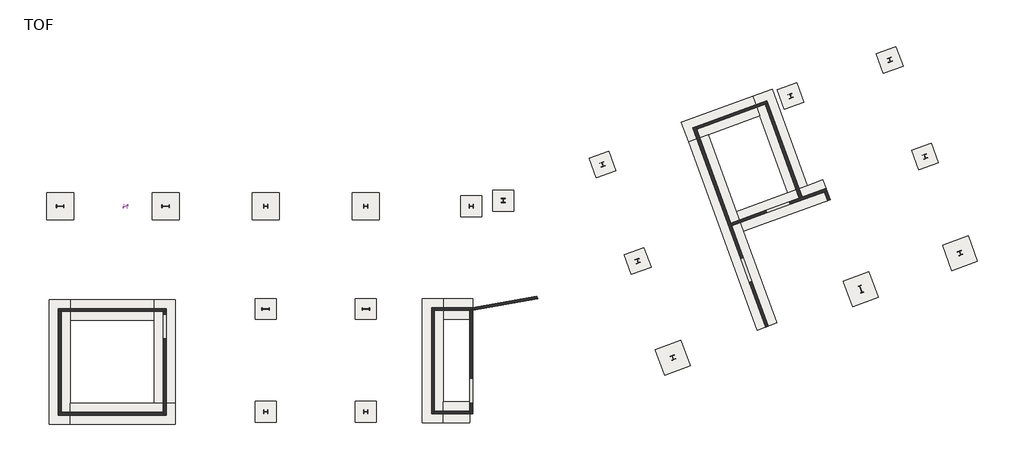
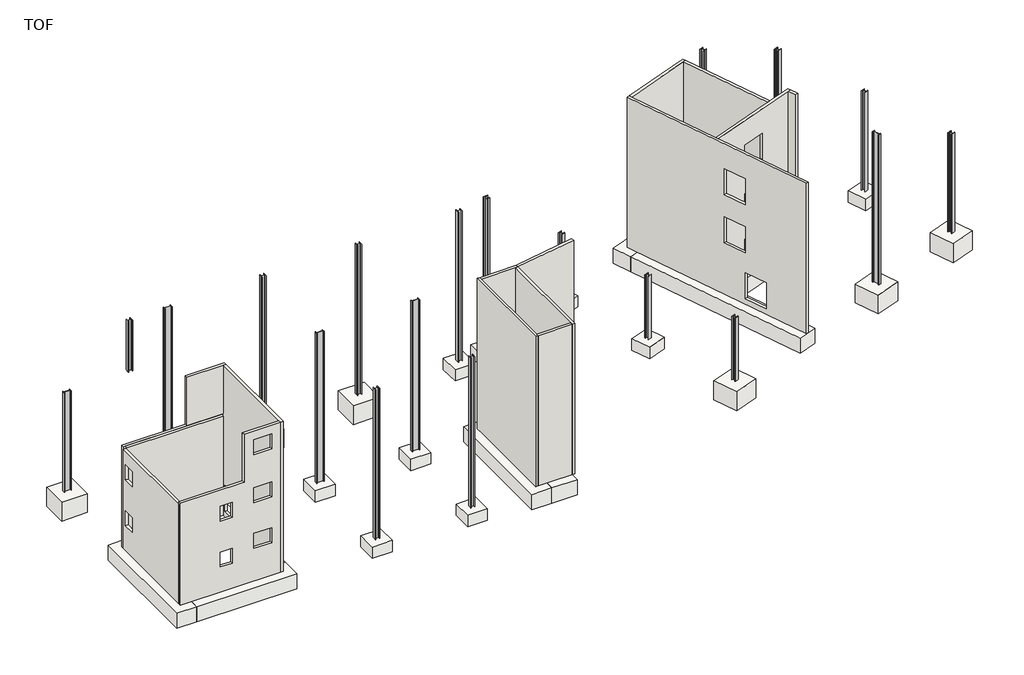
# One storey: 19 columns, 18 slabs, 14 walls, 11 footings.
"""IFC4 building model written with IfcOpenShell, lengths in millimetres."""

from ifc_helpers import new_model, si_unit, point, frame, frame_2d, origin, place, context, project, spatial, polyline, circle_curve, trimmed, segment, composite_curve, outline, extrude, faceted_brep, transform, mapped, element, save
from components import w_shapes_column_w12x79_d0459791, w_shapes_column_w12x79_edbe5077, w_shapes_column_w12x79_cd1dd4a6, w_shapes_column_w21x93_f6fee3cd, w_shapes_column_w21x93_43f6f9c6, slab_a75956b3, slab_430385ac

model = new_model("IFC4")

# Units and contexts
model_context = context("Model", 3, world=origin())
ifc_project = project(units=[si_unit("LENGTHUNIT", "METRE", prefix="MILLI")], contexts=[model_context])

# Site, building, storey
site = spatial("IfcSite", under=ifc_project)
building = spatial("IfcBuilding", under=site)
storey = spatial("IfcBuildingStorey", under=building, Name="TOF", Elevation=-450.0)

# Columns
placement = place(None, origin())
element("IfcColumn", 1, ObjectType="W Shapes-Column : W12X79", at=placement, inside=storey, context=model_context, shape_type="SweptSolid", body=[
    extrude(outline(composite_curve([segment(polyline([(4974.3866692, 15516.8700005), (4993.0556692, 15516.8700005), (4993.0556692, 15384.2820005)]), True, "CONTINUOUS"), segment(trimmed(circle_curve(frame_2d((5008.1686692, 15384.2820005)), 15.113), [point((4993.0556692, 15384.2820005))], [point((5008.1686692, 15369.1690005))], True, "CARTESIAN"), True, "CONTINUOUS"), segment(polyline([(5008.1686692, 15369.1690005), (5255.5646692, 15369.1690005)]), True, "CONTINUOUS"), segment(trimmed(circle_curve(frame_2d((5255.5646692, 15384.2820005)), 15.113), [point((5255.5646692, 15369.1690005))], [point((5270.6776692, 15384.2820005))], True, "CARTESIAN"), True, "CONTINUOUS"), segment(polyline([(5270.6776692, 15384.2820005), (5270.6776692, 15516.8700005), (5289.3466692, 15516.8700005), (5289.3466692, 15209.5300005), (5270.6776692, 15209.5300005), (5270.6776692, 15342.1180005)]), True, "CONTINUOUS"), segment(trimmed(circle_curve(frame_2d((5255.5646692, 15342.1180005)), 15.113), [point((5270.6776692, 15342.1180005))], [point((5255.5646692, 15357.2310005))], True, "CARTESIAN"), True, "CONTINUOUS"), segment(polyline([(5255.5646692, 15357.2310005), (5008.1686692, 15357.2310005)]), True, "CONTINUOUS"), segment(trimmed(circle_curve(frame_2d((5008.1686692, 15342.1180005)), 15.113), [point((5008.1686692, 15357.2310005))], [point((4993.0556692, 15342.1180005))], True, "CARTESIAN"), True, "CONTINUOUS"), segment(polyline([(4993.0556692, 15342.1180005), (4993.0556692, 15209.5300005), (4974.3866692, 15209.5300005), (4974.3866692, 15516.8700005)]), True, "CONTINUOUS")], self_intersect=False)), frame((0.0, 0.0, 7595.0), z_axis=(0.0, 0.0, 1.0), x_axis=(1.0, 0.0, 0.0)), (0.0, 0.0, 1.0), 4105.0),
])
w_shapes_column_w12x79_shape = w_shapes_column_w12x79_d0459791(model_context)
element("IfcColumn", 2, ObjectType="W Shapes-Column : W12X79", at=placement, inside=storey, context=model_context, shape_type="MappedRepresentation", body=[
    mapped(w_shapes_column_w12x79_shape, transform((22662.2000023, 15363.2000005, 0.0), x_axis=(0.0, 1.0, 0.0), y_axis=(-1.0, 0.0, 0.0), z_axis=(0.0, 0.0, 1.0))),
])
element("IfcColumn", 3, ObjectType="W Shapes-Column : W12X79", at=placement, inside=storey, context=model_context, shape_type="MappedRepresentation", body=[
    mapped(w_shapes_column_w12x79_shape, transform((15362.2000023, 15363.2000005, 0.0), x_axis=(0.0, 1.0, 0.0), y_axis=(-1.0, 0.0, 0.0), z_axis=(0.0, 0.0, 1.0))),
])
element("IfcColumn", 4, ObjectType="W Shapes-Column : W12X79", at=placement, inside=storey, context=model_context, shape_type="MappedRepresentation", body=[
    mapped(w_shapes_column_w12x79_shape, transform((15362.2000023, 363.2000005, 0.0), x_axis=(0.0, 1.0, 0.0), y_axis=(-1.0, 0.0, 0.0), z_axis=(0.0, 0.0, 1.0))),
])
element("IfcColumn", 5, ObjectType="W Shapes-Column : W12X79", at=placement, inside=storey, context=model_context, shape_type="MappedRepresentation", body=[
    mapped(w_shapes_column_w12x79_shape, transform((22662.2000022, 363.2000005, 0.0), x_axis=(0.0, 1.0, 0.0), y_axis=(-1.0, 0.0, 0.0), z_axis=(0.0, 0.0, 1.0))),
])
element("IfcColumn", 6, ObjectType="W Shapes-Column : W12X79", at=placement, inside=storey, context=model_context, shape_type="MappedRepresentation", body=[
    mapped(w_shapes_column_w12x79_shape, transform((53654.8598867, 23402.4160596, 0.0), x_axis=(0.9396926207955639, 0.3420201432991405, 0.0), y_axis=(-0.3420201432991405, 0.9396926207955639, 0.0), z_axis=(0.0, 0.0, 1.0))),
])
element("IfcColumn", 7, ObjectType="W Shapes-Column : W12X79", at=placement, inside=storey, context=model_context, shape_type="MappedRepresentation", body=[
    mapped(w_shapes_column_w12x79_shape, transform((30362.2000022, 15363.2000005, 0.0), x_axis=(0.0, 1.0, 0.0), y_axis=(-1.0, 0.0, 0.0), z_axis=(0.0, 0.0, 1.0))),
])
element("IfcColumn", 8, ObjectType="W Shapes-Column : W12X79", at=placement, inside=storey, context=model_context, shape_type="MappedRepresentation", body=[
    mapped(w_shapes_column_w12x79_shape, transform((32699.714443, 15775.3668642, 0.0), x_axis=(1.0, 0.0, 0.0), y_axis=(0.0, 1.0, 0.0), z_axis=(0.0, 0.0, 1.0))),
])
w_shapes_column_w12x79_2_shape = w_shapes_column_w12x79_edbe5077(model_context)
element("IfcColumn", 9, ObjectType="W Shapes-Column : W12X79", at=placement, inside=storey, context=model_context, shape_type="MappedRepresentation", body=[
    mapped(w_shapes_column_w12x79_2_shape, transform((42500.4986978, 11361.2273115, 0.0), x_axis=(0.9396926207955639, 0.3420201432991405, 0.0), y_axis=(-0.3420201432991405, 0.9396926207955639, 0.0), z_axis=(0.0, 0.0, 1.0))),
])
element("IfcColumn", 10, ObjectType="W Shapes-Column : W12X79", at=placement, inside=storey, context=model_context, shape_type="MappedRepresentation", body=[
    mapped(w_shapes_column_w12x79_2_shape, transform((39935.3476231, 18408.9219674, 0.0), x_axis=(0.9396926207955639, 0.3420201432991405, 0.0), y_axis=(-0.3420201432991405, 0.9396926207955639, 0.0), z_axis=(0.0, 0.0, 1.0))),
])
element("IfcColumn", 11, ObjectType="W Shapes-Column : W12X79", at=placement, inside=storey, context=model_context, shape_type="MappedRepresentation", body=[
    mapped(w_shapes_column_w12x79_2_shape, transform((45065.6497726, 4313.5326555, 0.0), x_axis=(0.939692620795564, 0.3420201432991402, 0.0), y_axis=(-0.3420201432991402, 0.939692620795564, 0.0), z_axis=(0.0, 0.0, 1.0))),
])
w_shapes_column_w12x79_3_shape = w_shapes_column_w12x79_cd1dd4a6(model_context)
element("IfcColumn", 12, ObjectType="W Shapes-Column : W12X79", at=placement, inside=storey, context=model_context, shape_type="MappedRepresentation", body=[
    mapped(w_shapes_column_w12x79_3_shape, transform((60890.4930669, 26035.971163, 0.0), x_axis=(0.9396926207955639, 0.3420201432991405, 0.0), y_axis=(-0.3420201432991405, 0.9396926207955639, 0.0), z_axis=(0.0, 0.0, 1.0))),
])
element("IfcColumn", 13, ObjectType="W Shapes-Column : W12X79", at=placement, inside=storey, context=model_context, shape_type="MappedRepresentation", body=[
    mapped(w_shapes_column_w12x79_3_shape, transform((63455.6441416, 18988.2765071, 0.0), x_axis=(0.9396926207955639, 0.3420201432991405, 0.0), y_axis=(-0.3420201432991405, 0.9396926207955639, 0.0), z_axis=(0.0, 0.0, 1.0))),
])
element("IfcColumn", 14, ObjectType="W Shapes-Column : W12X79", at=placement, inside=storey, context=model_context, shape_type="MappedRepresentation", body=[
    mapped(w_shapes_column_w12x79_3_shape, transform((66020.7952164, 11940.5818511, 0.0), x_axis=(0.9396926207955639, 0.3420201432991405, 0.0), y_axis=(-0.3420201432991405, 0.9396926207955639, 0.0), z_axis=(0.0, 0.0, 1.0))),
])
w_shapes_column_w21x93_shape = w_shapes_column_w21x93_f6fee3cd(model_context)
element("IfcColumn", 15, ObjectType="W Shapes-Column : W21X93", at=placement, inside=storey, context=model_context, shape_type="MappedRepresentation", body=[
    mapped(w_shapes_column_w21x93_shape, transform((15362.2000023, 7863.2000004, 0.0), x_axis=(0.0, 1.0, 0.0), y_axis=(-1.0, 0.0, 0.0), z_axis=(0.0, 0.0, 1.0))),
])
element("IfcColumn", 16, ObjectType="W Shapes-Column : W21X93", at=placement, inside=storey, context=model_context, shape_type="MappedRepresentation", body=[
    mapped(w_shapes_column_w21x93_shape, transform((22662.2000022, 7863.2000004, 0.0), x_axis=(0.0, 1.0, 0.0), y_axis=(-1.0, 0.0, 0.0), z_axis=(0.0, 0.0, 1.0))),
])
element("IfcColumn", 17, ObjectType="W Shapes-Column : W21X93", at=placement, inside=storey, context=model_context, shape_type="MappedRepresentation", body=[
    mapped(w_shapes_column_w21x93_shape, transform((8062.2000022, 15363.2000005, 0.0), x_axis=(0.0, 1.0, 0.0), y_axis=(-1.0, 0.0, 0.0), z_axis=(0.0, 0.0, 1.0))),
])
element("IfcColumn", 18, ObjectType="W Shapes-Column : W21X93", at=placement, inside=storey, context=model_context, shape_type="MappedRepresentation", body=[
    mapped(w_shapes_column_w21x93_shape, transform((58785.1620362, 9307.0267477, 0.0), x_axis=(0.9396926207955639, 0.3420201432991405, 0.0), y_axis=(-0.3420201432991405, 0.9396926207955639, 0.0), z_axis=(0.0, 0.0, 1.0))),
])
w_shapes_column_w21x93_2_shape = w_shapes_column_w21x93_43f6f9c6(model_context)
element("IfcColumn", 19, ObjectType="W Shapes-Column : W21X93", at=placement, inside=storey, context=model_context, shape_type="MappedRepresentation", body=[
    mapped(w_shapes_column_w21x93_2_shape, transform((362.2000023, 15363.2000005, 0.0), x_axis=(0.0, 1.0, 0.0), y_axis=(-1.0, 0.0, 0.0), z_axis=(0.0, 0.0, 1.0))),
])

# Footings
element("IfcFooting", 20, ObjectType="Retaining Footing - 5' x 4'", at=placement, inside=storey, context=model_context, shape_type="Brep", body=[
    faceted_brep([(1094.9999999, -548.9999993, -450.0), (1095.0000002, 975.0000007, -450.0), (1095.0000011, 7026.2000003, -450.0), (1095.0000014, 8550.2000003, -450.0), (-428.9999986, 8550.2000003, -450.0), (-429.0000001, -548.9999993, -450.0), (-429.0000001, -548.9999993, -1669.2), (-428.9999986, 8550.2000003, -1669.2), (1094.9999999, -548.9999993, -1669.2), (1095.0000014, 8550.2000003, -1669.2), (1095.0000011, 7026.2000003, -1669.2), (1095.0000002, 975.0000007, -1669.2)], [[[0, 1, 2, 3, 4, 5]], [[6, 5, 4, 7]], [[8, 6, 7, 9, 10, 11]], [[0, 8, 11, 10, 9, 3, 2, 1]], [[0, 5, 6, 8]], [[4, 3, 9, 7]]]),
])
element("IfcFooting", 21, ObjectType="Retaining Footing - 5' x 4'", at=placement, inside=storey, context=model_context, shape_type="Brep", body=[
    faceted_brep([(8749.2000024, -548.9999993, -450.0), (8749.2000024, 975.0000007, -450.0), (7225.2000024, 975.0000007, -450.0), (1095.0000002, 975.0000007, -450.0), (1094.9999999, -548.9999993, -450.0), (8749.2000024, -548.9999993, -1669.2), (1094.9999999, -548.9999993, -1669.2), (8749.2000024, 975.0000007, -1669.2), (1095.0000002, 975.0000007, -1669.2), (7225.2000024, 975.0000007, -1669.2)], [[[0, 1, 2, 3, 4]], [[5, 0, 4, 6]], [[7, 5, 6, 8, 9]], [[1, 7, 9, 8, 3, 2]], [[4, 3, 8, 6]], [[1, 0, 5, 7]]]),
])
element("IfcFooting", 22, ObjectType="Retaining Footing - 5' x 4'", at=placement, inside=storey, context=model_context, shape_type="Brep", body=[
    faceted_brep([(8749.2000024, 8550.2000005, -450.0), (7225.2000024, 8550.2000005, -450.0), (7225.2000024, 7026.2000005, -450.0), (7225.2000024, 975.0000007, -450.0), (8749.2000024, 975.0000007, -450.0), (8749.2000024, 8550.2000005, -1669.2), (8749.2000024, 975.0000007, -1669.2), (7225.2000024, 8550.2000005, -1669.2), (7225.2000024, 975.0000007, -1669.2), (7225.2000024, 7026.2000005, -1669.2)], [[[0, 1, 2, 3, 4]], [[5, 0, 4, 6]], [[7, 5, 6, 8, 9]], [[1, 7, 9, 8, 3, 2]], [[4, 3, 8, 6]], [[1, 0, 5, 7]]]),
])
element("IfcFooting", 23, ObjectType="Retaining Footing - 5' x 4'", at=placement, inside=storey, context=model_context, shape_type="SweptSolid", body=[
    extrude(outline(polyline([(1095.0000011, 7026.2000003), (1095.0000014, 8550.2000003), (7225.2000024, 8550.2000005), (7225.2000024, 7026.2000005), (1095.0000011, 7026.2000003)])), frame((0.0, 0.0, -1669.2), z_axis=(0.0, 0.0, 1.0), x_axis=(1.0, 0.0, 0.0)), (0.0, 0.0, 1.0), 1219.2),
])
element("IfcFooting", 24, ObjectType="Retaining Footing - 5' x 4'", at=placement, inside=storey, context=model_context, shape_type="Brep", body=[
    faceted_brep([(28324.2000028, -441.9999994, -450.0), (28324.2000028, 1082.0000006, -450.0), (28324.2000028, 7101.2000004, -450.0), (28324.2000028, 8625.2000004, -450.0), (26800.2000028, 8625.2000004, -450.0), (26800.2000028, -441.9999994, -450.0), (26800.2000028, -441.9999994, -1669.2), (26800.2000028, 8625.2000004, -1669.2), (28324.2000028, -441.9999994, -1669.2), (28324.2000028, 8625.2000004, -1669.2), (28324.2000028, 7101.2000004, -1669.2), (28324.2000028, 1082.0000006, -1669.2)], [[[0, 1, 2, 3, 4, 5]], [[6, 5, 4, 7]], [[8, 6, 7, 9, 10, 11]], [[0, 8, 11, 10, 9, 3, 2, 1]], [[4, 3, 9, 7]], [[0, 5, 6, 8]]]),
])
element("IfcFooting", 25, ObjectType="Retaining Footing - 5' x 4'", at=placement, inside=storey, context=model_context, shape_type="SweptSolid", body=[
    extrude(outline(polyline([(30462.2000027, 8625.2000004), (30462.2000027, 7101.2000004), (28324.2000028, 7101.2000004), (28324.2000028, 8625.2000004), (30462.2000027, 8625.2000004)])), frame((0.0, 0.0, -1669.2), z_axis=(0.0, 0.0, 1.0), x_axis=(1.0, 0.0, 0.0)), (0.0, 0.0, 1.0), 1219.2),
])
element("IfcFooting", 26, ObjectType="Retaining Footing - 5' x 4'", at=placement, inside=storey, context=model_context, shape_type="SweptSolid", body=[
    extrude(outline(polyline([(30262.2000024, 1082.0000006), (30262.2000024, -441.9999994), (28324.2000028, -441.9999994), (28324.2000028, 1082.0000006), (30262.2000024, 1082.0000006)])), frame((0.0, 0.0, -1669.2), z_axis=(0.0, 0.0, 1.0), x_axis=(1.0, 0.0, 0.0)), (0.0, 0.0, 1.0), 1219.2),
])
element("IfcFooting", 27, ObjectType="Retaining Footing - 5' x 4'", at=placement, inside=storey, context=model_context, shape_type="Brep", body=[
    faceted_brep([(50888.6273089, 23392.9371486, -450.0), (51409.8660073, 21960.8455946, -450.0), (53452.9917374, 16347.4037856, -450.0), (54885.0832915, 16868.642484, -450.0), (52320.718863, 23914.175847, -450.0), (52320.718863, 23914.175847, -1669.2), (54885.0832915, 16868.642484, -1669.2), (50888.6273089, 23392.9371486, -1669.2), (53452.9917374, 16347.4037856, -1669.2), (51409.8660073, 21960.8455946, -1669.2)], [[[0, 1, 2, 3, 4]], [[5, 4, 3, 6]], [[7, 5, 6, 8, 9]], [[0, 7, 9, 8, 2, 1]], [[0, 4, 5, 7]], [[3, 2, 8, 6]]]),
])
element("IfcFooting", 28, ObjectType="Retaining Footing - 5' x 4'", at=placement, inside=storey, context=model_context, shape_type="Brep", body=[
    faceted_brep([(45688.0397531, 21500.0780778, -450.0), (46209.2784514, 20067.9865237, -450.0), (47641.3700055, 20589.2252221, -450.0), (51409.8660073, 21960.8455946, -450.0), (50888.6273089, 23392.9371486, -450.0), (45688.0397531, 21500.0780778, -1669.2), (50888.6273089, 23392.9371486, -1669.2), (46209.2784514, 20067.9865237, -1669.2), (51409.8660073, 21960.8455946, -1669.2), (47641.3700055, 20589.2252221, -1669.2)], [[[0, 1, 2, 3, 4]], [[5, 0, 4, 6]], [[7, 5, 6, 8, 9]], [[1, 7, 9, 8, 3, 2]], [[4, 3, 8, 6]], [[1, 0, 5, 7]]]),
])
element("IfcFooting", 29, ObjectType="Retaining Footing - 5' x 4'", at=placement, inside=storey, context=model_context, shape_type="Brep", body=[
    faceted_brep([(51212.4859157, 6321.7869897, -450.0), (51212.4859157, 6321.7869897, -1669.2), (52644.5774698, 6843.0256881, -1669.2), (52644.5774698, 6843.0256881, -450.0), (50205.734434, 13543.691859, -450.0), (49684.4957356, 14975.7834131, -450.0), (47641.3700055, 20589.2252221, -450.0), (46209.2784514, 20067.9865237, -450.0), (46209.2784514, 20067.9865237, -1669.2), (47641.3700055, 20589.2252221, -1669.2), (49684.4957356, 14975.7834131, -1669.2), (50205.734434, 13543.691859, -1669.2)], [[[0, 1, 2, 3]], [[0, 3, 4, 5, 6, 7]], [[1, 0, 7, 8]], [[2, 1, 8, 9, 10, 11]], [[3, 2, 11, 10, 9, 6, 5, 4]], [[7, 6, 9, 8]]]),
])
element("IfcFooting", 30, ObjectType="Retaining Footing - 5' x 4'", at=placement, inside=storey, context=model_context, shape_type="Brep", body=[
    faceted_brep([(56537.3833129, 15848.2235846, -450.0), (56537.3833129, 15848.2235846, -1669.2), (56016.1446145, 17280.3151387, -1669.2), (56016.1446145, 17280.3151387, -450.0), (50205.734434, 13543.691859, -450.0), (54885.0832915, 16868.642484, -450.0), (53452.9917374, 16347.4037856, -450.0), (49684.4957356, 14975.7834131, -450.0), (50205.734434, 13543.691859, -1669.2), (49684.4957356, 14975.7834131, -1669.2), (53452.9917374, 16347.4037856, -1669.2), (54885.0832915, 16868.642484, -1669.2)], [[[0, 1, 2, 3]], [[4, 0, 3, 5, 6, 7]], [[1, 0, 4, 8]], [[2, 1, 8, 9, 10, 11]], [[3, 2, 11, 10, 9, 7, 6, 5]], [[4, 7, 9, 8]]]),
])

# Slabs
slab_shape = slab_a75956b3(model_context)
element("IfcSlab", 31, ObjectType="Footing-Rectangular : 60\" x 60\" x 36\"", at=placement, inside=storey, context=model_context, shape_type="MappedRepresentation", body=[
    mapped(slab_shape, transform((15362.2000023, 7863.2000004, -450.0), x_axis=(0.0, 1.0, 0.0), y_axis=(-1.0, 0.0, 0.0), z_axis=(0.0, 0.0, 1.0))),
])
element("IfcSlab", 32, ObjectType="Footing-Rectangular : 60\" x 60\" x 36\"", at=placement, inside=storey, context=model_context, shape_type="MappedRepresentation", body=[
    mapped(slab_shape, transform((22662.2000022, 7863.2000004, -450.0), x_axis=(0.0, 1.0, 0.0), y_axis=(-1.0, 0.0, 0.0), z_axis=(0.0, 0.0, 1.0))),
])
element("IfcSlab", 33, ObjectType="Footing-Rectangular : 60\" x 60\" x 36\"", at=placement, inside=storey, context=model_context, shape_type="MappedRepresentation", body=[
    mapped(slab_shape, transform((15362.2000023, 363.2000005, -450.0), x_axis=(0.0, 1.0, 0.0), y_axis=(-1.0, 0.0, 0.0), z_axis=(0.0, 0.0, 1.0))),
])
element("IfcSlab", 34, ObjectType="Footing-Rectangular : 60\" x 60\" x 36\"", at=placement, inside=storey, context=model_context, shape_type="MappedRepresentation", body=[
    mapped(slab_shape, transform((22662.2000022, 363.2000005, -450.0), x_axis=(0.0, 1.0, 0.0), y_axis=(-1.0, 0.0, 0.0), z_axis=(0.0, 0.0, 1.0))),
])
element("IfcSlab", 35, ObjectType="Footing-Rectangular : 60\" x 60\" x 36\"", at=placement, inside=storey, context=model_context, shape_type="MappedRepresentation", body=[
    mapped(slab_shape, transform((42500.4986978, 11361.2273115, -450.0), x_axis=(0.9396926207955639, 0.3420201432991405, 0.0), y_axis=(-0.3420201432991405, 0.9396926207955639, 0.0), z_axis=(0.0, 0.0, 1.0))),
])
element("IfcSlab", 36, ObjectType="Footing-Rectangular : 60\" x 60\" x 36\"", at=placement, inside=storey, context=model_context, shape_type="MappedRepresentation", body=[
    mapped(slab_shape, transform((39935.3476231, 18408.9219674, -450.0), x_axis=(0.9396926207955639, 0.3420201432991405, 0.0), y_axis=(-0.3420201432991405, 0.9396926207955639, 0.0), z_axis=(0.0, 0.0, 1.0))),
])
element("IfcSlab", 37, ObjectType="Footing-Rectangular : 60\" x 60\" x 36\"", at=placement, inside=storey, context=model_context, shape_type="MappedRepresentation", body=[
    mapped(slab_shape, transform((53654.8598867, 23402.4160596, -450.0), x_axis=(0.9396926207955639, 0.3420201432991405, 0.0), y_axis=(-0.3420201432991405, 0.9396926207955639, 0.0), z_axis=(0.0, 0.0, 1.0))),
])
element("IfcSlab", 38, ObjectType="Footing-Rectangular : 60\" x 60\" x 36\"", at=placement, inside=storey, context=model_context, shape_type="MappedRepresentation", body=[
    mapped(slab_shape, transform((60890.4930669, 26035.971163, -450.0), x_axis=(0.9396926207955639, 0.3420201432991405, 0.0), y_axis=(-0.3420201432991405, 0.9396926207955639, 0.0), z_axis=(0.0, 0.0, 1.0))),
])
element("IfcSlab", 39, ObjectType="Footing-Rectangular : 60\" x 60\" x 36\"", at=placement, inside=storey, context=model_context, shape_type="MappedRepresentation", body=[
    mapped(slab_shape, transform((63455.6441416, 18988.2765071, -450.0), x_axis=(0.9396926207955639, 0.3420201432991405, 0.0), y_axis=(-0.3420201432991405, 0.9396926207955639, 0.0), z_axis=(0.0, 0.0, 1.0))),
])
element("IfcSlab", 40, ObjectType="Footing-Rectangular : 60\" x 60\" x 36\"", at=placement, inside=storey, context=model_context, shape_type="MappedRepresentation", body=[
    mapped(slab_shape, transform((30362.2000022, 15363.2000005, -450.0), x_axis=(0.0, 1.0, 0.0), y_axis=(-1.0, 0.0, 0.0), z_axis=(0.0, 0.0, 1.0))),
])
element("IfcSlab", 41, ObjectType="Footing-Rectangular : 60\" x 60\" x 36\"", at=placement, inside=storey, context=model_context, shape_type="MappedRepresentation", body=[
    mapped(slab_shape, transform((32699.714443, 15775.3668642, -450.0), x_axis=(1.0, 0.0, 0.0), y_axis=(0.0, 1.0, 0.0), z_axis=(0.0, 0.0, 1.0))),
])
slab_2_shape = slab_430385ac(model_context)
element("IfcSlab", 42, ObjectType="Footing-Rectangular : 78\" x 78\" x 60\"", at=placement, inside=storey, context=model_context, shape_type="MappedRepresentation", body=[
    mapped(slab_2_shape, transform((22662.2000023, 15363.2000005, -450.0), x_axis=(0.0, 1.0, 0.0), y_axis=(-1.0, 0.0, 0.0), z_axis=(0.0, 0.0, 1.0))),
])
element("IfcSlab", 43, ObjectType="Footing-Rectangular : 78\" x 78\" x 60\"", at=placement, inside=storey, context=model_context, shape_type="MappedRepresentation", body=[
    mapped(slab_2_shape, transform((15362.2000023, 15363.2000005, -450.0), x_axis=(0.0, 1.0, 0.0), y_axis=(-1.0, 0.0, 0.0), z_axis=(0.0, 0.0, 1.0))),
])
element("IfcSlab", 44, ObjectType="Footing-Rectangular : 78\" x 78\" x 60\"", at=placement, inside=storey, context=model_context, shape_type="MappedRepresentation", body=[
    mapped(slab_2_shape, transform((8062.2000022, 15363.2000005, -450.0), x_axis=(0.0, 1.0, 0.0), y_axis=(-1.0, 0.0, 0.0), z_axis=(0.0, 0.0, 1.0))),
])
element("IfcSlab", 45, ObjectType="Footing-Rectangular : 78\" x 78\" x 60\"", at=placement, inside=storey, context=model_context, shape_type="MappedRepresentation", body=[
    mapped(slab_2_shape, transform((362.2000023, 15363.2000005, -450.0), x_axis=(0.0, 1.0, 0.0), y_axis=(-1.0, 0.0, 0.0), z_axis=(0.0, 0.0, 1.0))),
])
element("IfcSlab", 46, ObjectType="Footing-Rectangular : 78\" x 78\" x 60\"", at=placement, inside=storey, context=model_context, shape_type="MappedRepresentation", body=[
    mapped(slab_2_shape, transform((66020.7952164, 11940.5818511, -450.0), x_axis=(0.9396926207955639, 0.3420201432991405, 0.0), y_axis=(-0.3420201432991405, 0.9396926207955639, 0.0), z_axis=(0.0, 0.0, 1.0))),
])
element("IfcSlab", 47, ObjectType="Footing-Rectangular : 78\" x 78\" x 60\"", at=placement, inside=storey, context=model_context, shape_type="MappedRepresentation", body=[
    mapped(slab_2_shape, transform((58785.1620362, 9307.0267477, -450.0), x_axis=(0.9396926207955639, 0.3420201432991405, 0.0), y_axis=(-0.3420201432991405, 0.9396926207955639, 0.0), z_axis=(0.0, 0.0, 1.0))),
])
element("IfcSlab", 48, ObjectType="Footing-Rectangular : 78\" x 78\" x 60\"", at=placement, inside=storey, context=model_context, shape_type="MappedRepresentation", body=[
    mapped(slab_2_shape, transform((45065.6497726, 4313.5326555, -450.0), x_axis=(0.939692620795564, 0.3420201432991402, 0.0), y_axis=(-0.3420201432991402, 0.939692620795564, 0.0), z_axis=(0.0, 0.0, 1.0))),
])

# Walls
element("IfcWall", 49, ObjectType="RC WALL 200", at=placement, inside=storey, context=model_context, shape_type="Brep", body=[
    faceted_brep([(27662.2000028, 220.0000006, -450.0), (27662.2000028, 420.0000006, -450.0), (27662.2000028, 7763.2000004, -450.0), (27662.2000028, 7963.2000004, -450.0), (27662.2000028, 7963.2000004, 11700.0), (27662.2000028, 7763.2000004, 11700.0), (27662.2000028, 420.0000006, 11700.0), (27662.2000028, 220.0000006, 11700.0), (27462.2000028, 220.0000006, -450.0), (27462.2000028, 220.0000006, 11700.0), (27462.2000028, 7963.2000004, 11700.0), (27462.2000028, 7963.2000004, -450.0)], [[[0, 1, 2, 3, 4, 5, 6, 7]], [[8, 9, 10, 11]], [[3, 2, 1, 0, 8, 11]], [[7, 6, 5, 4, 10, 9]], [[4, 3, 11, 10]], [[0, 7, 9, 8]]]),
])
element("IfcWall", 50, ObjectType="RC WALL 200", at=placement, inside=storey, context=model_context, shape_type="Brep", body=[
    faceted_brep([(27662.2000028, 7763.2000004, -450.0), (30262.2000024, 7763.2000004, -450.0), (30462.2000027, 7763.2000004, -450.0), (30462.2000027, 7763.2000004, 11700.0), (30262.2000024, 7763.2000004, 11700.0), (27662.2000028, 7763.2000004, 11700.0), (27662.2000028, 7963.2000004, -450.0), (27662.2000028, 7963.2000004, 11700.0), (30444.70227, 7963.2000004, 11700.0), (30444.70227, 7963.2000004, -450.0)], [[[0, 1, 2, 3, 4, 5]], [[6, 7, 8, 9]], [[2, 1, 0, 6, 9]], [[5, 4, 3, 8, 7]], [[0, 5, 7, 6]], [[3, 2, 9, 8]]]),
])
element("IfcWall", 51, ObjectType="RC WALL 200", at=placement, inside=storey, context=model_context, shape_type="SweptSolid", body=[
    extrude(outline(polyline([(35205.0982701, 8599.5009317), (30462.2000027, 7763.2000004), (30444.70227, 7963.2000004), (35153.1367317, 8793.4240329), (35205.0982701, 8599.5009317)])), frame((0.0, 0.0, -450.0), z_axis=(0.0, 0.0, 1.0), x_axis=(1.0, 0.0, 0.0)), (0.0, 0.0, 1.0), 12150.0),
])
element("IfcWall", 52, ObjectType="RC WALL 200", at=placement, inside=storey, context=model_context, shape_type="Brep", body=[
    faceted_brep([(30262.2000024, 7763.2000004, -450.0), (30262.2000024, 420.0000006, -450.0), (30262.2000024, 220.0000006, -450.0), (30262.2000024, 220.0000006, 11700.0), (30262.2000024, 420.0000006, 11700.0), (30262.2000024, 7763.2000004, 11700.0), (30262.2000024, 2805.5234345, 2110.0), (30262.2000024, 995.5234345, 2110.0), (30262.2000024, 995.5234345, 0.0), (30262.2000024, 2805.5234345, 0.0), (30262.2000024, 2805.5234345, 5805.0), (30262.2000024, 995.5234345, 5805.0), (30262.2000024, 995.5234345, 3695.0), (30262.2000024, 2805.5234345, 3695.0), (30262.2000024, 2805.5234345, 9705.0), (30262.2000024, 995.5234345, 9705.0), (30262.2000024, 995.5234345, 7595.0), (30262.2000024, 2805.5234345, 7595.0), (30462.2000024, 7763.2000004, -450.0), (30462.2000024, 7763.2000004, 11700.0), (30462.2000024, 220.0000006, 11700.0), (30462.2000024, 220.0000006, -450.0), (30462.2000024, 2805.5234345, 2110.0), (30462.2000024, 2805.5234345, 0.0), (30462.2000024, 995.5234345, 0.0), (30462.2000024, 995.5234345, 2110.0), (30462.2000024, 2805.5234345, 5805.0), (30462.2000024, 2805.5234345, 3695.0), (30462.2000024, 995.5234345, 3695.0), (30462.2000024, 995.5234345, 5805.0), (30462.2000024, 2805.5234345, 9705.0), (30462.2000024, 2805.5234345, 7595.0), (30462.2000024, 995.5234345, 7595.0), (30462.2000024, 995.5234345, 9705.0)], [[[0, 1, 2, 3, 4, 5], [6, 7, 8, 9], [10, 11, 12, 13], [14, 15, 16, 17]], [[18, 19, 20, 21], [22, 23, 24, 25], [26, 27, 28, 29], [30, 31, 32, 33]], [[2, 1, 0, 18, 21]], [[5, 4, 3, 20, 19]], [[0, 5, 19, 18]], [[3, 2, 21, 20]], [[23, 22, 6, 9]], [[24, 23, 9, 8]], [[25, 24, 8, 7]], [[22, 25, 7, 6]], [[27, 26, 10, 13]], [[28, 27, 13, 12]], [[29, 28, 12, 11]], [[26, 29, 11, 10]], [[31, 30, 14, 17]], [[32, 31, 17, 16]], [[33, 32, 16, 15]], [[30, 33, 15, 14]]]),
])
element("IfcWall", 53, ObjectType="RC WALL 200", at=placement, inside=storey, context=model_context, shape_type="SweptSolid", body=[
    extrude(outline(polyline([(27662.2000028, 420.0000006), (30262.2000024, 420.0000006), (30262.2000024, 220.0000006), (27662.2000028, 220.0000006), (27662.2000028, 420.0000006)])), frame((0.0, 0.0, -450.0), z_axis=(0.0, 0.0, 1.0), x_axis=(1.0, 0.0, 0.0)), (0.0, 0.0, 1.0), 12150.0),
])
element("IfcWall", 54, ObjectType="RC WALL 200", at=placement, inside=storey, context=model_context, shape_type="Brep", body=[
    faceted_brep([(233.0000012, 7688.2000003, -450.0), (433.0000012, 7688.2000003, -450.0), (7887.2000024, 7688.2000005, -450.0), (8087.2000024, 7688.2000005, -450.0), (8087.2000024, 7688.2000005, 7595.0), (433.0000012, 7688.2000003, 7595.0), (408.0000012, 7688.2000003, 7595.0), (408.0000012, 7688.2000003, 7795.0), (8087.2000024, 7688.2000005, 7795.0), (8087.2000024, 7688.2000005, 11700.0), (7887.2000024, 7688.2000005, 11700.0), (5097.2000022, 7688.2000004, 11700.0), (5097.2000022, 7688.2000004, 7800.0), (233.0000012, 7688.2000003, 7800.0), (233.0000012, 7688.2000003, 7595.0), (8087.2000024, 7888.2000005, -450.0), (233.0000013, 7888.2000003, -450.0), (233.0000013, 7888.2000003, 7800.0), (5097.2000022, 7888.2000004, 7800.0), (5097.2000022, 7888.2000004, 11700.0), (8087.2000024, 7888.2000005, 11700.0), (8087.2000024, 7888.2000005, 7795.0), (408.0000013, 7888.2000003, 7795.0), (408.0000013, 7888.2000003, 7595.0), (8087.2000024, 7888.2000005, 7595.0)], [[[0, 1, 2, 3, 4, 5, 6, 7, 8, 9, 10, 11, 12, 13, 14]], [[15, 16, 17, 18, 19, 20, 21, 22, 23, 24]], [[0, 14, 13, 17, 16]], [[3, 15, 24, 4]], [[20, 9, 8, 21]], [[3, 2, 1, 0, 16, 15]], [[11, 10, 9, 20, 19]], [[12, 11, 19, 18]], [[13, 12, 18, 17]], [[23, 6, 5, 4, 24]], [[7, 22, 21, 8]], [[6, 23, 22, 7]]]),
])
element("IfcWall", 55, ObjectType="RC WALL 200", at=placement, inside=storey, context=model_context, shape_type="Brep", body=[
    faceted_brep([(7887.2000024, 7688.2000005, -450.0), (7887.2000024, 313.0000007, -450.0), (7887.2000024, 113.0000007, -450.0), (7887.2000024, 113.0000007, 11700.0), (7887.2000024, 313.0000007, 11700.0), (7887.2000024, 7688.2000005, 11700.0), (7887.2000024, 5678.2000005, 2110.0), (7887.2000024, 5678.2000005, 0.0), (7887.2000024, 7488.2000005, 0.0), (7887.2000024, 7488.2000005, 2110.0), (8087.2000024, 7688.2000005, -450.0), (8087.2000024, 7688.2000005, 7595.0), (8087.2000024, 7688.2000005, 7795.0), (8087.2000024, 7688.2000005, 11700.0), (8087.2000024, 113.0000007, 11700.0), (8087.2000024, 113.0000007, -450.0), (8087.2000024, 5678.2000005, 2110.0), (8087.2000024, 7488.2000005, 2110.0), (8087.2000024, 7488.2000005, 0.0), (8087.2000024, 5678.2000005, 0.0)], [[[0, 1, 2, 3, 4, 5], [6, 7, 8, 9]], [[10, 11, 12, 13, 14, 15], [16, 17, 18, 19]], [[2, 1, 0, 10, 15]], [[5, 4, 3, 14, 13]], [[3, 2, 15, 14]], [[7, 6, 16, 19]], [[8, 7, 19, 18]], [[9, 8, 18, 17]], [[6, 9, 17, 16]], [[0, 5, 13, 12, 11, 10]]]),
])
element("IfcWall", 56, ObjectType="RC WALL 200", at=placement, inside=storey, context=model_context, shape_type="Brep", body=[
    faceted_brep([(7887.2000024, 313.0000007, -450.0), (433.0000001, 313.0000007, -450.0), (233.0000001, 313.0000007, -450.0), (233.0000001, 313.0000007, 7595.0), (233.0000001, 313.0000007, 7800.0), (5097.2000022, 313.0000007, 7800.0), (5097.2000022, 313.0000007, 11700.0), (7887.2000024, 313.0000007, 11700.0), (4197.2000022, 313.0000007, 6495.0), (3287.2000022, 313.0000007, 6495.0), (3287.2000022, 313.0000007, 5285.0), (4197.2000022, 313.0000007, 5285.0), (4197.2000022, 313.0000007, 2800.0), (3287.2000022, 313.0000007, 2800.0), (3287.2000022, 313.0000007, 1590.0), (4197.2000022, 313.0000007, 1590.0), (7213.8166692, 313.0000007, 7095.0), (5853.8166692, 313.0000007, 7095.0), (5853.8166692, 313.0000007, 5885.0), (7213.8166692, 313.0000007, 5885.0), (7213.8166692, 313.0000007, 3400.0), (5853.8166692, 313.0000007, 3400.0), (5853.8166692, 313.0000007, 2190.0), (7213.8166692, 313.0000007, 2190.0), (7213.8166692, 313.0000007, 10995.0), (5853.8166692, 313.0000007, 10995.0), (5853.8166692, 313.0000007, 9785.0), (7213.8166692, 313.0000007, 9785.0), (7887.2000024, 113.0000007, -450.0), (7887.2000024, 113.0000007, 11700.0), (5097.2000022, 113.0000007, 11700.0), (5097.2000022, 113.0000007, 7800.0), (233.0, 113.0000007, 7800.0), (233.0, 113.0000007, -450.0), (4197.2000022, 113.0000007, 6495.0), (4197.2000022, 113.0000007, 5285.0), (3287.2000022, 113.0000007, 5285.0), (3287.2000022, 113.0000007, 6495.0), (4197.2000022, 113.0000007, 2800.0), (4197.2000022, 113.0000007, 1590.0), (3287.2000022, 113.0000007, 1590.0), (3287.2000022, 113.0000007, 2800.0), (7213.8166692, 113.0000007, 7095.0), (7213.8166692, 113.0000007, 5885.0), (5853.8166692, 113.0000007, 5885.0), (5853.8166692, 113.0000007, 7095.0), (7213.8166692, 113.0000007, 3400.0), (7213.8166692, 113.0000007, 2190.0), (5853.8166692, 113.0000007, 2190.0), (5853.8166692, 113.0000007, 3400.0), (7213.8166692, 113.0000007, 10995.0), (7213.8166692, 113.0000007, 9785.0), (5853.8166692, 113.0000007, 9785.0), (5853.8166692, 113.0000007, 10995.0)], [[[0, 1, 2, 3, 4, 5, 6, 7], [8, 9, 10, 11], [12, 13, 14, 15], [16, 17, 18, 19], [20, 21, 22, 23], [24, 25, 26, 27]], [[28, 29, 30, 31, 32, 33], [34, 35, 36, 37], [38, 39, 40, 41], [42, 43, 44, 45], [46, 47, 48, 49], [50, 51, 52, 53]], [[0, 7, 29, 28]], [[4, 3, 2, 33, 32]], [[35, 34, 8, 11]], [[36, 35, 11, 10]], [[37, 36, 10, 9]], [[34, 37, 9, 8]], [[39, 38, 12, 15]], [[40, 39, 15, 14]], [[41, 40, 14, 13]], [[38, 41, 13, 12]], [[43, 42, 16, 19]], [[44, 43, 19, 18]], [[45, 44, 18, 17]], [[42, 45, 17, 16]], [[47, 46, 20, 23]], [[48, 47, 23, 22]], [[49, 48, 22, 21]], [[46, 49, 21, 20]], [[51, 50, 24, 27]], [[52, 51, 27, 26]], [[53, 52, 26, 25]], [[50, 53, 25, 24]], [[2, 1, 0, 28, 33]], [[7, 6, 30, 29]], [[5, 4, 32, 31]], [[6, 5, 31, 30]]]),
])
element("IfcWall", 57, ObjectType="RC WALL 200", at=placement, inside=storey, context=model_context, shape_type="Brep", body=[
    faceted_brep([(433.0000001, 313.0000007, -450.0), (433.0000012, 7688.2000003, -450.0), (433.0000012, 7688.2000003, 7595.0), (433.0000001, 313.0000007, 7595.0), (433.000001, 6478.2000003, 6495.0), (433.0000012, 7388.2000003, 6495.0), (433.0000012, 7388.2000003, 5285.0), (433.000001, 6478.2000003, 5285.0), (433.000001, 6478.2000003, 2800.0), (433.0000012, 7388.2000003, 2800.0), (433.0000012, 7388.2000003, 1590.0), (433.000001, 6478.2000003, 1590.0), (233.0000001, 313.0000007, -450.0), (233.0000001, 313.0000007, 7595.0), (233.0000012, 7688.2000003, 7595.0), (233.0000012, 7688.2000003, -450.0), (233.000001, 6478.2000003, 6495.0), (233.000001, 6478.2000003, 5285.0), (233.0000012, 7388.2000003, 5285.0), (233.0000012, 7388.2000003, 6495.0), (233.000001, 6478.2000003, 2800.0), (233.000001, 6478.2000003, 1590.0), (233.0000012, 7388.2000003, 1590.0), (233.0000012, 7388.2000003, 2800.0), (408.0000012, 7688.2000003, 7595.0)], [[[0, 1, 2, 3], [4, 5, 6, 7], [8, 9, 10, 11]], [[12, 13, 14, 15], [16, 17, 18, 19], [20, 21, 22, 23]], [[1, 0, 12, 15]], [[3, 2, 24, 14, 13]], [[2, 1, 15, 14, 24]], [[0, 3, 13, 12]], [[17, 16, 4, 7]], [[18, 17, 7, 6]], [[19, 18, 6, 5]], [[16, 19, 5, 4]], [[21, 20, 8, 11]], [[22, 21, 11, 10]], [[23, 22, 10, 9]], [[20, 23, 9, 8]]]),
])
element("IfcWall", 58, ObjectType="RC WALL 200", at=placement, inside=storey, context=model_context, shape_type="Brep", body=[
    faceted_brep([(52022.5009548, 6616.6083532, -450.0), (49357.2405842, 13939.3510391, -450.0), (49288.8365555, 14127.2895633, -450.0), (46792.8761557, 20984.8844022, -450.0), (46724.472127, 21172.8229263, -450.0), (46724.472127, 21172.8229263, 11700.0), (46792.8761557, 20984.8844022, 11700.0), (49288.8365555, 14127.2895633, 11700.0), (49357.2405842, 13939.3510391, 11700.0), (52022.5009548, 6616.6083532, 11700.0), (49588.9592312, 13302.7092887, 5805.0), (49588.9592312, 13302.7092887, 3695.0), (50208.0156906, 11601.865645, 3695.0), (50208.0156906, 11601.865645, 5805.0), (50212.2909424, 11590.1194872, 2110.0), (50212.2909424, 11590.1194872, 0.0), (50831.3474018, 9889.2758435, 0.0), (50831.3474018, 9889.2758435, 2110.0), (49588.9592312, 13302.7092887, 9705.0), (49588.9592312, 13302.7092887, 7595.0), (50208.0156906, 11601.865645, 7595.0), (50208.0156906, 11601.865645, 9705.0), (51834.5624306, 6548.2043246, -450.0), (51834.5624306, 6548.2043246, 11700.0), (46536.5336029, 21104.4188977, 11700.0), (46536.5336029, 21104.4188977, -450.0), (49401.020707, 13234.30526, 5805.0), (50020.0771664, 11533.4616164, 5805.0), (50020.0771664, 11533.4616164, 3695.0), (49401.020707, 13234.30526, 3695.0), (50024.3524182, 11521.7154585, 2110.0), (50643.4088776, 9820.8718149, 2110.0), (50643.4088776, 9820.8718149, 0.0), (50024.3524182, 11521.7154585, 0.0), (49401.020707, 13234.30526, 9705.0), (50020.0771664, 11533.4616164, 9705.0), (50020.0771664, 11533.4616164, 7595.0), (49401.020707, 13234.30526, 7595.0)], [[[0, 1, 2, 3, 4, 5, 6, 7, 8, 9], [10, 11, 12, 13], [14, 15, 16, 17], [18, 19, 20, 21]], [[22, 23, 24, 25], [26, 27, 28, 29], [30, 31, 32, 33], [34, 35, 36, 37]], [[4, 3, 2, 1, 0, 22, 25]], [[9, 8, 7, 6, 5, 24, 23]], [[0, 9, 23, 22]], [[5, 4, 25, 24]], [[11, 10, 26, 29]], [[12, 11, 29, 28]], [[13, 12, 28, 27]], [[10, 13, 27, 26]], [[15, 14, 30, 33]], [[16, 15, 33, 32]], [[17, 16, 32, 31]], [[14, 17, 31, 30]], [[19, 18, 34, 37]], [[20, 19, 37, 36]], [[21, 20, 36, 35]], [[18, 21, 35, 34]]]),
])
element("IfcWall", 59, ObjectType="RC WALL 200", at=placement, inside=storey, context=model_context, shape_type="Brep", body=[
    faceted_brep([(46792.8761557, 20984.8844022, -450.0), (51805.5251874, 22809.3394444, -450.0), (51993.4637116, 22877.743473, -450.0), (51993.4637116, 22877.743473, 11700.0), (51805.5251874, 22809.3394444, 11700.0), (46792.8761557, 20984.8844022, 11700.0), (46724.472127, 21172.8229263, -450.0), (46724.472127, 21172.8229263, 11700.0), (51925.0596829, 23065.6819972, 11700.0), (51925.0596829, 23065.6819972, -450.0)], [[[0, 1, 2, 3, 4, 5]], [[6, 7, 8, 9]], [[2, 1, 0, 6, 9]], [[5, 4, 3, 8, 7]], [[0, 5, 7, 6]], [[3, 2, 9, 8]]]),
])
element("IfcWall", 60, ObjectType="RC WALL 200", at=placement, inside=storey, context=model_context, shape_type="SweptSolid", body=[
    extrude(outline(polyline([(54301.4855873, 15951.7446055), (51805.5251874, 22809.3394444), (51993.4637116, 22877.743473), (54489.4241114, 16020.1486342), (54301.4855873, 15951.7446055)])), frame((0.0, 0.0, -450.0), z_axis=(0.0, 0.0, 1.0), x_axis=(1.0, 0.0, 0.0)), (0.0, 0.0, 1.0), 12150.0),
])
element("IfcWall", 61, ObjectType="RC WALL 200", at=placement, inside=storey, context=model_context, shape_type="Brep", body=[
    faceted_brep([(56242.5619494, 16658.2386237, -450.0), (54489.4241114, 16020.1486342, -450.0), (54301.4855873, 15951.7446055, -450.0), (49288.8365555, 14127.2895633, -450.0), (49288.8365555, 14127.2895633, 11700.0), (54301.4855873, 15951.7446055, 11700.0), (54489.4241114, 16020.1486342, 11700.0), (56242.5619494, 16658.2386237, 11700.0), (53549.7314906, 15678.1284909, 2110.0), (51848.887847, 15059.0720315, 2110.0), (51848.887847, 15059.0720315, 0.0), (53549.7314906, 15678.1284909, 0.0), (53549.7314906, 15678.1284909, 5805.0), (51848.887847, 15059.0720315, 5805.0), (51848.887847, 15059.0720315, 3695.0), (53549.7314906, 15678.1284909, 3695.0), (53549.7314906, 15678.1284909, 9705.0), (51848.887847, 15059.0720315, 9705.0), (51848.887847, 15059.0720315, 7595.0), (53549.7314906, 15678.1284909, 7595.0), (56310.965978, 16470.3000996, -450.0), (56310.965978, 16470.3000996, 11700.0), (56123.0274539, 16401.8960709, 11700.0), (49357.2405842, 13939.3510391, 11700.0), (49357.2405842, 13939.3510391, -450.0), (56123.0274539, 16401.8960709, -450.0), (53618.1355193, 15490.1899667, 2110.0), (53618.1355193, 15490.1899667, 0.0), (51917.2918756, 14871.1335074, 0.0), (51917.2918756, 14871.1335074, 2110.0), (53618.1355193, 15490.1899667, 5805.0), (53618.1355193, 15490.1899667, 3695.0), (51917.2918756, 14871.1335074, 3695.0), (51917.2918756, 14871.1335074, 5805.0), (53618.1355193, 15490.1899667, 9705.0), (53618.1355193, 15490.1899667, 7595.0), (51917.2918756, 14871.1335074, 7595.0), (51917.2918756, 14871.1335074, 9705.0)], [[[0, 1, 2, 3, 4, 5, 6, 7], [8, 9, 10, 11], [12, 13, 14, 15], [16, 17, 18, 19]], [[20, 21, 22, 23, 24, 25], [26, 27, 28, 29], [30, 31, 32, 33], [34, 35, 36, 37]], [[3, 2, 1, 0, 20, 25, 24]], [[7, 6, 5, 4, 23, 22, 21]], [[4, 3, 24, 23]], [[27, 26, 8, 11]], [[28, 27, 11, 10]], [[29, 28, 10, 9]], [[26, 29, 9, 8]], [[0, 7, 21, 20]], [[31, 30, 12, 15]], [[32, 31, 15, 14]], [[33, 32, 14, 13]], [[30, 33, 13, 12]], [[35, 34, 16, 19]], [[36, 35, 19, 18]], [[37, 36, 18, 17]], [[34, 37, 17, 16]]]),
])
element("IfcWall", 62, ObjectType="RC WALL 200", at=placement, inside=storey, context=model_context, shape_type="SweptSolid", body=[
    extrude(outline(polyline([(56352.1809499, 15772.302015), (56123.0274539, 16401.8960709), (56310.965978, 16470.3000996), (56540.1194741, 15840.7060436), (56352.1809499, 15772.302015)])), frame((0.0, 0.0, -450.0), z_axis=(0.0, 0.0, 1.0), x_axis=(1.0, 0.0, 0.0)), (0.0, 0.0, 1.0), 12150.0),
])

save(model, "model.ifc")
